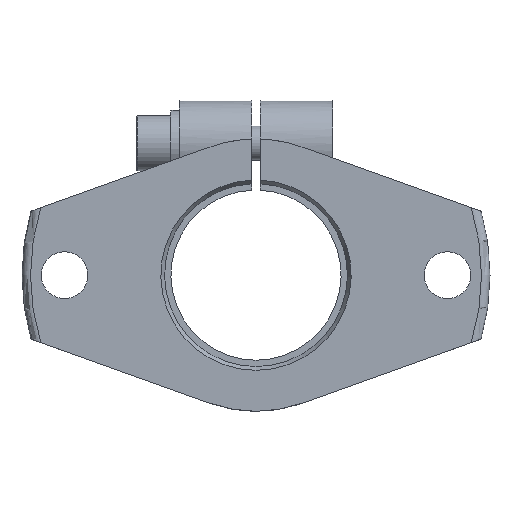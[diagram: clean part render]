
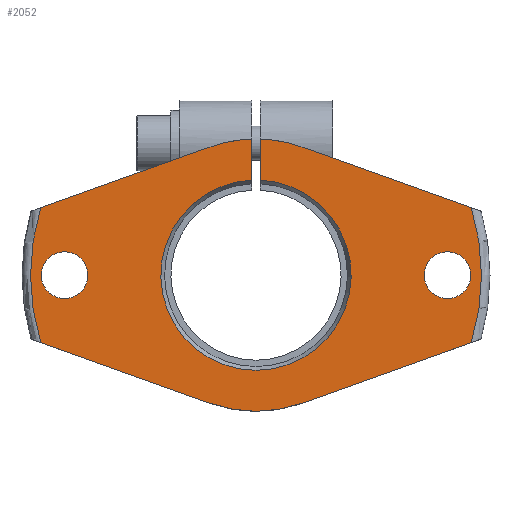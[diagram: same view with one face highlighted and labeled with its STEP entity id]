
A CAD part, left-side view. The second image highlights one B-rep face of the part: STEP entity #2052.
In plain terms, the highlighted planar face has unit normal (-1, 0, 0).
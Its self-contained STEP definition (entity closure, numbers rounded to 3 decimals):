
#481=CARTESIAN_POINT('',(0.0,-50.578,-15.839));
#482=VERTEX_POINT('',#481);
#519=CARTESIAN_POINT('',(0.0,-50.578,15.839));
#520=VERTEX_POINT('',#519);
#549=CARTESIAN_POINT('',(0.0,0.0,0.0));
#550=DIRECTION('',(1.0,0.0,0.0));
#551=DIRECTION('',(0.0,-1.0,0.0));
#552=AXIS2_PLACEMENT_3D('',#549,#550,#551);
#553=CIRCLE('',#552,53.);
#554=EDGE_CURVE('',#520,#482,#553,.T.);
#634=CARTESIAN_POINT('',(0.0,-10.814,30.117));
#635=VERTEX_POINT('',#634);
#642=CARTESIAN_POINT('',(0.0,-10.814,30.117));
#643=DIRECTION('',(0.0,-0.941,-0.338));
#644=VECTOR('',#643,42.249);
#645=LINE('',#642,#644);
#646=EDGE_CURVE('',#635,#520,#645,.T.);
#681=CARTESIAN_POINT('',(0.0,50.578,15.839));
#682=VERTEX_POINT('',#681);
#719=CARTESIAN_POINT('',(0.0,50.578,-15.839));
#720=VERTEX_POINT('',#719);
#749=CARTESIAN_POINT('',(0.0,0.0,0.0));
#750=DIRECTION('',(1.0,0.0,0.0));
#751=DIRECTION('',(0.0,1.0,0.0));
#752=AXIS2_PLACEMENT_3D('',#749,#750,#751);
#753=CIRCLE('',#752,53.);
#754=EDGE_CURVE('',#720,#682,#753,.T.);
#797=CARTESIAN_POINT('',(0.0,10.814,30.117));
#798=VERTEX_POINT('',#797);
#799=CARTESIAN_POINT('',(0.0,50.578,15.839));
#800=DIRECTION('',(0.0,-0.941,0.338));
#801=VECTOR('',#800,42.249);
#802=LINE('',#799,#801);
#803=EDGE_CURVE('',#682,#798,#802,.T.);
#1141=CARTESIAN_POINT('',(0.0,-10.814,-30.117));
#1142=VERTEX_POINT('',#1141);
#1149=CARTESIAN_POINT('',(0.0,10.814,-30.117));
#1150=VERTEX_POINT('',#1149);
#1151=CARTESIAN_POINT('',(0.0,0.0,0.0));
#1152=DIRECTION('',(1.0,0.0,0.0));
#1153=DIRECTION('',(0.0,1.0,0.0));
#1154=AXIS2_PLACEMENT_3D('',#1151,#1152,#1153);
#1155=CIRCLE('',#1154,32.0);
#1156=EDGE_CURVE('',#1142,#1150,#1155,.T.);
#1547=CARTESIAN_POINT('',(0.0,1.,31.984));
#1548=VERTEX_POINT('',#1547);
#1555=CARTESIAN_POINT('',(0.0,1.,22.344));
#1556=VERTEX_POINT('',#1555);
#1557=CARTESIAN_POINT('',(0.0,1.,22.344));
#1558=DIRECTION('',(0.0,0.0,1.0));
#1559=VECTOR('',#1558,9.641);
#1560=LINE('',#1557,#1559);
#1561=EDGE_CURVE('',#1556,#1548,#1560,.T.);
#1672=CARTESIAN_POINT('',(0.0,50.5,0.));
#1673=VERTEX_POINT('',#1672);
#1674=CARTESIAN_POINT('',(0.0,45.0,0.));
#1675=DIRECTION('',(1.0,0.0,0.0));
#1676=DIRECTION('',(0.0,1.0,0.0));
#1677=AXIS2_PLACEMENT_3D('',#1674,#1675,#1676);
#1678=CIRCLE('',#1677,5.5);
#1679=EDGE_CURVE('',#1673,#1673,#1678,.T.);
#1700=CARTESIAN_POINT('',(0.0,-39.5,0.));
#1701=VERTEX_POINT('',#1700);
#1702=CARTESIAN_POINT('',(0.0,-45.0,0.));
#1703=DIRECTION('',(1.0,0.0,0.0));
#1704=DIRECTION('',(0.0,1.0,0.0));
#1705=AXIS2_PLACEMENT_3D('',#1702,#1703,#1704);
#1706=CIRCLE('',#1705,5.5);
#1707=EDGE_CURVE('',#1701,#1701,#1706,.T.);
#1804=CARTESIAN_POINT('',(0.0,-1.,22.344));
#1805=VERTEX_POINT('',#1804);
#1806=CARTESIAN_POINT('',(0.0,0.0,0.0));
#1807=DIRECTION('',(-1.0,0.0,0.0));
#1808=DIRECTION('',(0.0,0.0,-1.0));
#1809=AXIS2_PLACEMENT_3D('',#1806,#1807,#1808);
#1810=CIRCLE('',#1809,22.366);
#1811=EDGE_CURVE('',#1556,#1805,#1810,.T.);
#1883=CARTESIAN_POINT('',(0.0,-1.,31.984));
#1884=VERTEX_POINT('',#1883);
#1885=CARTESIAN_POINT('',(0.0,-1.,31.984));
#1886=DIRECTION('',(0.0,0.0,-1.0));
#1887=VECTOR('',#1886,9.641);
#1888=LINE('',#1885,#1887);
#1889=EDGE_CURVE('',#1884,#1805,#1888,.T.);
#1989=CARTESIAN_POINT('',(0.0,0.0,0.0));
#1990=DIRECTION('',(1.0,0.0,0.0));
#1991=DIRECTION('',(0.0,1.0,0.0));
#1992=AXIS2_PLACEMENT_3D('',#1989,#1990,#1991);
#1993=CIRCLE('',#1992,32.0);
#1994=EDGE_CURVE('',#798,#1548,#1993,.T.);
#2005=CARTESIAN_POINT('',(0.0,0.0,0.0));
#2006=DIRECTION('',(1.0,0.0,0.0));
#2007=DIRECTION('',(0.0,1.0,0.0));
#2008=AXIS2_PLACEMENT_3D('',#2005,#2006,#2007);
#2009=CIRCLE('',#2008,32.0);
#2010=EDGE_CURVE('',#1884,#635,#2009,.T.);
#2017=CARTESIAN_POINT('',(0.0,-31.854,0.0));
#2018=DIRECTION('',(1.0,0.0,0.0));
#2019=DIRECTION('',(0.0,0.0,-1.0));
#2020=AXIS2_PLACEMENT_3D('',#2017,#2018,#2019);
#2021=PLANE('',#2020);
#2022=ORIENTED_EDGE('',*,*,#554,.F.);
#2023=ORIENTED_EDGE('',*,*,#646,.F.);
#2024=ORIENTED_EDGE('',*,*,#2010,.F.);
#2025=ORIENTED_EDGE('',*,*,#1889,.T.);
#2026=ORIENTED_EDGE('',*,*,#1811,.F.);
#2027=ORIENTED_EDGE('',*,*,#1561,.T.);
#2028=ORIENTED_EDGE('',*,*,#1994,.F.);
#2029=ORIENTED_EDGE('',*,*,#803,.F.);
#2030=ORIENTED_EDGE('',*,*,#754,.F.);
#2031=CARTESIAN_POINT('',(0.0,10.814,-30.117));
#2032=DIRECTION('',(0.0,0.941,0.338));
#2033=VECTOR('',#2032,42.249);
#2034=LINE('',#2031,#2033);
#2035=EDGE_CURVE('',#1150,#720,#2034,.T.);
#2036=ORIENTED_EDGE('',*,*,#2035,.F.);
#2037=ORIENTED_EDGE('',*,*,#1156,.F.);
#2038=CARTESIAN_POINT('',(0.0,-50.578,-15.839));
#2039=DIRECTION('',(0.0,0.941,-0.338));
#2040=VECTOR('',#2039,42.249);
#2041=LINE('',#2038,#2040);
#2042=EDGE_CURVE('',#482,#1142,#2041,.T.);
#2043=ORIENTED_EDGE('',*,*,#2042,.F.);
#2044=EDGE_LOOP('',(#2022,#2023,#2024,#2025,#2026,#2027,#2028,#2029,#2030,#2036,#2037,#2043));
#2045=FACE_OUTER_BOUND('',#2044,.T.);
#2046=ORIENTED_EDGE('',*,*,#1679,.T.);
#2047=EDGE_LOOP('',(#2046));
#2048=FACE_BOUND('',#2047,.T.);
#2049=ORIENTED_EDGE('',*,*,#1707,.T.);
#2050=EDGE_LOOP('',(#2049));
#2051=FACE_BOUND('',#2050,.T.);
#2052=ADVANCED_FACE('',(#2045,#2048,#2051),#2021,.F.);
